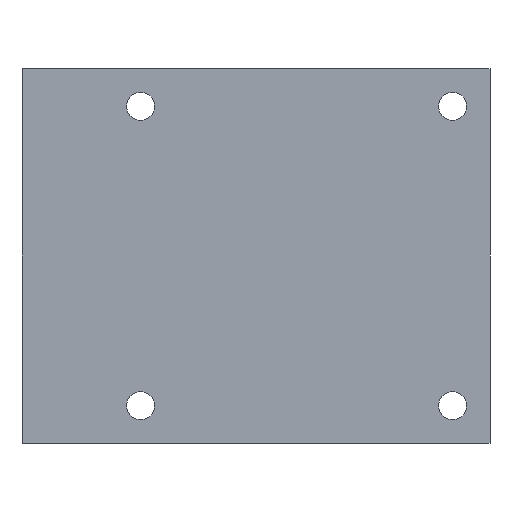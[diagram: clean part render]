
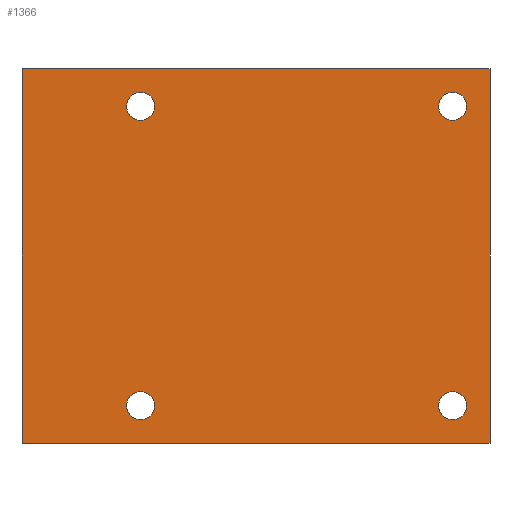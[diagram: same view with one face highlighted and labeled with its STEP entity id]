
A CAD part, front view. The second image highlights one B-rep face of the part: STEP entity #1366.
In plain terms, the highlighted planar face has unit normal (0, -1, 0).
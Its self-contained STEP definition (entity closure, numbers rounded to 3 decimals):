
#14 = DIRECTION ( 'NONE',  ( 0., 0., 1. ) ) ;
#31 = CARTESIAN_POINT ( 'NONE',  ( 0., 0., 120. ) ) ;
#39 = LINE ( 'NONE', #31, #96 ) ;
#55 = EDGE_CURVE ( 'NONE', #362, #1402, #756, .T. ) ;
#65 = VECTOR ( 'NONE', #1572, 1000. ) ;
#93 = EDGE_CURVE ( 'NONE', #972, #485, #39, .T. ) ;
#96 = VECTOR ( 'NONE', #521, 1000. ) ;
#107 = DIRECTION ( 'NONE',  ( 0., 1., 0. ) ) ;
#126 = LINE ( 'NONE', #1443, #65 ) ;
#151 = CARTESIAN_POINT ( 'NONE',  ( 38., 0., 108. ) ) ;
#182 = CARTESIAN_POINT ( 'NONE',  ( 138., 0., 108. ) ) ;
#183 = CARTESIAN_POINT ( 'NONE',  ( 138., 0., 112.5 ) ) ;
#188 = AXIS2_PLACEMENT_3D ( 'NONE', #151, #522, #14 ) ;
#201 = CARTESIAN_POINT ( 'NONE',  ( 138., 0., 7.5 ) ) ;
#220 = AXIS2_PLACEMENT_3D ( 'NONE', #762, #755, #530 ) ;
#231 = EDGE_LOOP ( 'NONE', ( #387, #722 ) ) ;
#325 = EDGE_CURVE ( 'NONE', #972, #1495, #126, .T. ) ;
#327 = CARTESIAN_POINT ( 'NONE',  ( 138., 0., 108. ) ) ;
#345 = EDGE_CURVE ( 'NONE', #574, #1596, #1094, .T. ) ;
#362 = VERTEX_POINT ( 'NONE', #1587 ) ;
#364 = CARTESIAN_POINT ( 'NONE',  ( 150., 0., 120. ) ) ;
#373 = VECTOR ( 'NONE', #1544, 1000. ) ;
#387 = ORIENTED_EDGE ( 'NONE', *, *, #1266, .T. ) ;
#425 = CIRCLE ( 'NONE', #931, 4.5 ) ;
#434 = FACE_OUTER_BOUND ( 'NONE', #781, .T. ) ;
#437 = EDGE_CURVE ( 'NONE', #835, #1243, #425, .T. ) ;
#485 = VERTEX_POINT ( 'NONE', #867 ) ;
#492 = EDGE_LOOP ( 'NONE', ( #788, #1541 ) ) ;
#521 = DIRECTION ( 'NONE',  ( 0., 0., -1. ) ) ;
#522 = DIRECTION ( 'NONE',  ( 0., 1., 0. ) ) ;
#526 = ORIENTED_EDGE ( 'NONE', *, *, #345, .T. ) ;
#530 = DIRECTION ( 'NONE',  ( 0., 0., 1. ) ) ;
#532 = CIRCLE ( 'NONE', #1382, 4.5 ) ;
#545 = CARTESIAN_POINT ( 'NONE',  ( 150., 0., 120. ) ) ;
#569 = PLANE ( 'NONE',  #1097 ) ;
#574 = VERTEX_POINT ( 'NONE', #874 ) ;
#581 = AXIS2_PLACEMENT_3D ( 'NONE', #1072, #1570, #1155 ) ;
#585 = DIRECTION ( 'NONE',  ( 0., 0., 1. ) ) ;
#611 = CARTESIAN_POINT ( 'NONE',  ( 38., 0., 108. ) ) ;
#641 = DIRECTION ( 'NONE',  ( 1., 0., 0. ) ) ;
#679 = AXIS2_PLACEMENT_3D ( 'NONE', #182, #920, #784 ) ;
#688 = EDGE_CURVE ( 'NONE', #823, #1391, #1356, .T. ) ;
#689 = DIRECTION ( 'NONE',  ( 0., 1., 0. ) ) ;
#692 = FACE_BOUND ( 'NONE', #231, .T. ) ;
#722 = ORIENTED_EDGE ( 'NONE', *, *, #437, .T. ) ;
#725 = CARTESIAN_POINT ( 'NONE',  ( 38., 0., 112.5 ) ) ;
#728 = CIRCLE ( 'NONE', #188, 4.5 ) ;
#755 = DIRECTION ( 'NONE',  ( 0., 1., 0. ) ) ;
#756 = CIRCLE ( 'NONE', #220, 4.5 ) ;
#762 = CARTESIAN_POINT ( 'NONE',  ( 138., 0., 12. ) ) ;
#781 = EDGE_LOOP ( 'NONE', ( #955, #1468, #1340, #924 ) ) ;
#784 = DIRECTION ( 'NONE',  ( 0., 0., 1. ) ) ;
#788 = ORIENTED_EDGE ( 'NONE', *, *, #833, .T. ) ;
#792 = EDGE_CURVE ( 'NONE', #1596, #574, #935, .T. ) ;
#795 = DIRECTION ( 'NONE',  ( 0., 0., 1. ) ) ;
#815 = DIRECTION ( 'NONE',  ( 0., 0., 1. ) ) ;
#818 = CARTESIAN_POINT ( 'NONE',  ( 0., 0., 120. ) ) ;
#822 = CARTESIAN_POINT ( 'NONE',  ( 38., 0., 12. ) ) ;
#823 = VERTEX_POINT ( 'NONE', #1577 ) ;
#833 = EDGE_CURVE ( 'NONE', #1391, #823, #532, .T. ) ;
#835 = VERTEX_POINT ( 'NONE', #944 ) ;
#838 = ORIENTED_EDGE ( 'NONE', *, *, #872, .T. ) ;
#867 = CARTESIAN_POINT ( 'NONE',  ( 0., 0., 0. ) ) ;
#872 = EDGE_CURVE ( 'NONE', #1402, #362, #1096, .T. ) ;
#874 = CARTESIAN_POINT ( 'NONE',  ( 38., 0., 7.5 ) ) ;
#907 = VECTOR ( 'NONE', #641, 1000. ) ;
#909 = FACE_BOUND ( 'NONE', #1081, .T. ) ;
#920 = DIRECTION ( 'NONE',  ( 0., 1., 0. ) ) ;
#924 = ORIENTED_EDGE ( 'NONE', *, *, #93, .T. ) ;
#931 = AXIS2_PLACEMENT_3D ( 'NONE', #611, #1102, #1597 ) ;
#935 = CIRCLE ( 'NONE', #1125, 4.5 ) ;
#944 = CARTESIAN_POINT ( 'NONE',  ( 38., 0., 103.5 ) ) ;
#955 = ORIENTED_EDGE ( 'NONE', *, *, #1335, .T. ) ;
#972 = VERTEX_POINT ( 'NONE', #1285 ) ;
#984 = AXIS2_PLACEMENT_3D ( 'NONE', #1320, #1199, #585 ) ;
#1055 = ORIENTED_EDGE ( 'NONE', *, *, #55, .T. ) ;
#1072 = CARTESIAN_POINT ( 'NONE',  ( 138., 0., 12. ) ) ;
#1081 = EDGE_LOOP ( 'NONE', ( #1319, #526 ) ) ;
#1091 = CARTESIAN_POINT ( 'NONE',  ( 38., 0., 16.5 ) ) ;
#1094 = CIRCLE ( 'NONE', #984, 4.5 ) ;
#1096 = CIRCLE ( 'NONE', #581, 4.5 ) ;
#1097 = AXIS2_PLACEMENT_3D ( 'NONE', #818, #1321, #795 ) ;
#1102 = DIRECTION ( 'NONE',  ( 0., 1., 0. ) ) ;
#1125 = AXIS2_PLACEMENT_3D ( 'NONE', #822, #689, #1441 ) ;
#1153 = LINE ( 'NONE', #1526, #907 ) ;
#1155 = DIRECTION ( 'NONE',  ( 0., 0., 1. ) ) ;
#1166 = FACE_BOUND ( 'NONE', #1455, .T. ) ;
#1199 = DIRECTION ( 'NONE',  ( 0., 1., 0. ) ) ;
#1243 = VERTEX_POINT ( 'NONE', #725 ) ;
#1266 = EDGE_CURVE ( 'NONE', #1243, #835, #728, .T. ) ;
#1285 = CARTESIAN_POINT ( 'NONE',  ( 0., 0., 120. ) ) ;
#1297 = CARTESIAN_POINT ( 'NONE',  ( 150., 0., 0. ) ) ;
#1307 = FACE_BOUND ( 'NONE', #492, .T. ) ;
#1319 = ORIENTED_EDGE ( 'NONE', *, *, #792, .T. ) ;
#1320 = CARTESIAN_POINT ( 'NONE',  ( 38., 0., 12. ) ) ;
#1321 = DIRECTION ( 'NONE',  ( 0., 1., 0. ) ) ;
#1335 = EDGE_CURVE ( 'NONE', #485, #1442, #1153, .T. ) ;
#1340 = ORIENTED_EDGE ( 'NONE', *, *, #325, .F. ) ;
#1356 = CIRCLE ( 'NONE', #679, 4.5 ) ;
#1366 = ADVANCED_FACE ( 'NONE', ( #1307, #692, #909, #1166, #434 ), #569, .F. ) ;
#1382 = AXIS2_PLACEMENT_3D ( 'NONE', #327, #107, #815 ) ;
#1391 = VERTEX_POINT ( 'NONE', #183 ) ;
#1402 = VERTEX_POINT ( 'NONE', #201 ) ;
#1436 = LINE ( 'NONE', #545, #373 ) ;
#1441 = DIRECTION ( 'NONE',  ( 0., 0., 1. ) ) ;
#1442 = VERTEX_POINT ( 'NONE', #1297 ) ;
#1443 = CARTESIAN_POINT ( 'NONE',  ( 0., 0., 120. ) ) ;
#1455 = EDGE_LOOP ( 'NONE', ( #1055, #838 ) ) ;
#1456 = EDGE_CURVE ( 'NONE', #1495, #1442, #1436, .T. ) ;
#1468 = ORIENTED_EDGE ( 'NONE', *, *, #1456, .F. ) ;
#1495 = VERTEX_POINT ( 'NONE', #364 ) ;
#1526 = CARTESIAN_POINT ( 'NONE',  ( 0., 0., 0. ) ) ;
#1541 = ORIENTED_EDGE ( 'NONE', *, *, #688, .T. ) ;
#1544 = DIRECTION ( 'NONE',  ( 0., 0., -1. ) ) ;
#1570 = DIRECTION ( 'NONE',  ( 0., 1., 0. ) ) ;
#1572 = DIRECTION ( 'NONE',  ( 1., 0., 0. ) ) ;
#1577 = CARTESIAN_POINT ( 'NONE',  ( 138., 0., 103.5 ) ) ;
#1587 = CARTESIAN_POINT ( 'NONE',  ( 138., 0., 16.5 ) ) ;
#1596 = VERTEX_POINT ( 'NONE', #1091 ) ;
#1597 = DIRECTION ( 'NONE',  ( 0., 0., 1. ) ) ;
